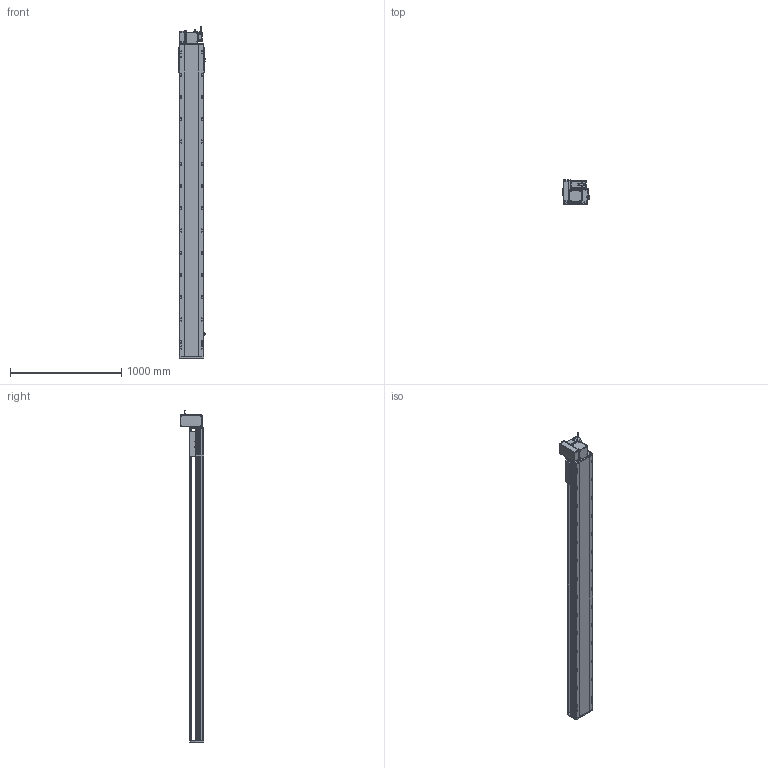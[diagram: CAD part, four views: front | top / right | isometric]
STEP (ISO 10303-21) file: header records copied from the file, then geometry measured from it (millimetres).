
FILE_DESCRIPTION (( 'STEP AP214' ), '1' );
FILE_NAME ('RTB22S-XX-2450-LW-M75-C4.STEP', '2025-12-12T06:03:19', ( '' ), ( '' ), 'SwSTEP 2.0', 'SolidWorks 2018', '' );
FILE_SCHEMA (( 'AUTOMOTIVE_DESIGN' ));
Length unit declared in the file: millimetre
Products named in the file (14): RTB22S-GY-014--々湍釱^RTB22S-LW-々湍釱蚾饜_RTB22S-XX-XX-LW-M75-C4; RTB22S-GY-017P^RTB22S-LW-々湍釱蚾饜_RTB22S-XX-XX-LW-M75-C4; RTB22S-XX-2450-LW-M75-C4; RTB22S-GY-018P^RTB22S-LW-々湍釱蚾饜_RTB22S-XX-XX-LW-M75-C4; RTH22-GY-013外置感应片^RTB22S-XX-XX-LW-M75-C4; RTB22S-LW-々湍釱蚾饜^RTB22S-XX-XX-LW-M75-C4; 750W萇儂^RTB22S-XX-XX-LW-M75-C4; RTB22S-GY-001耜裔^RTB22S-XX-XX-LW-M75-C4; RTB22S-L-011菁釱^RTB22S-XX-XX-LW-M75-C4; RTB22S-GY-007奻裔^RTB22S-XX-XX-LW-M75-C4; RTB22S-GY-008-M75--萇儂啣^RTB22S-LW-々湍釱蚾饜_RTB22S-XX-XX-LW-M75-C4; OMRON EE-SX672 传感器^RTB22S-XX-XX-LW-M75-C4; RTB22S-L-004賑釱^RTB22S-XX-XX-LW-M75-C4; RTB22S-GY-005P^RTB22S-LW-々湍釱蚾饜_RTB22S-XX-XX-LW-M75-C4
Assembly tree (16 placements, depth 3):
  RTB22S-XX-2450-LW-M75-C4
    RTB22S-L-011菁釱^RTB22S-XX-XX-LW-M75-C4
    RTB22S-GY-001耜裔^RTB22S-XX-XX-LW-M75-C4
    750W萇儂^RTB22S-XX-XX-LW-M75-C4
    RTB22S-GY-007奻裔^RTB22S-XX-XX-LW-M75-C4
    RTB22S-L-004賑釱^RTB22S-XX-XX-LW-M75-C4
    RTH22-GY-013外置感应片^RTB22S-XX-XX-LW-M75-C4
    OMRON EE-SX672 传感器^RTB22S-XX-XX-LW-M75-C4  x3
    RTB22S-LW-々湍釱蚾饜^RTB22S-XX-XX-LW-M75-C4
      RTB22S-GY-014--々湍釱^RTB22S-LW-々湍釱蚾饜_RTB22S-XX-XX-LW-M75-C4
      RTB22S-GY-017P^RTB22S-LW-々湍釱蚾饜_RTB22S-XX-XX-LW-M75-C4  x2
      RTB22S-GY-005P^RTB22S-LW-々湍釱蚾饜_RTB22S-XX-XX-LW-M75-C4
      RTB22S-GY-008-M75--萇儂啣^RTB22S-LW-々湍釱蚾饜_RTB22S-XX-XX-LW-M75-C4
      RTB22S-GY-018P^RTB22S-LW-々湍釱蚾饜_RTB22S-XX-XX-LW-M75-C4
Bounding box: 238.5 x 215.5 x 2982.2 mm (x, y, z)
Volume: 38177590.8 mm3; surface area: 3906830 mm2
Topology: 15 solids, 15 shells, 2109 faces, 5736 edges, 3662 vertices
Faces by surface type: plane 929, cylinder 706, bspline 296, cone 166, sphere 8, torus 4
Entity records: 57374 total; most frequent: CARTESIAN_POINT 16208, ORIENTED_EDGE 8204, DIRECTION 8016, EDGE_CURVE 4102, AXIS2_PLACEMENT_3D 2874, VERTEX_POINT 2666, VECTOR 2268, LINE 2268
